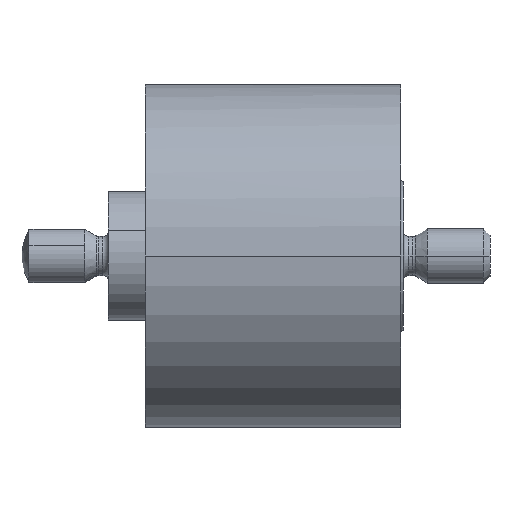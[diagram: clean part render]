
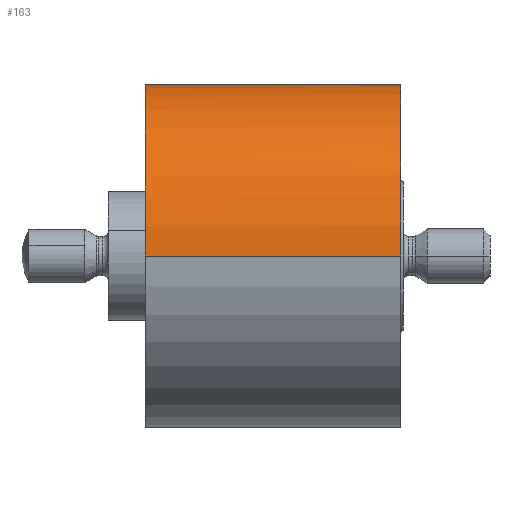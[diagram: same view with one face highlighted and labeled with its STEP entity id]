
A CAD part, left-side view. The second image highlights one B-rep face of the part: STEP entity #163.
In plain terms, the highlighted cylindrical face has radius 12.7 mm (diameter 25.4 mm), a partial arc.
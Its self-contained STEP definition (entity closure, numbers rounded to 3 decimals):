
#163=ADVANCED_FACE('',(#305),#306,.T.);
#305=FACE_OUTER_BOUND('',#513,.T.);
#306=CYLINDRICAL_SURFACE('',#514,12.7);
#513=EDGE_LOOP('',(#927,#928,#929,#930,#931,#932,#933));
#514=AXIS2_PLACEMENT_3D('',#934,#935,#936);
#927=ORIENTED_EDGE('',*,*,#1483,.F.);
#928=ORIENTED_EDGE('',*,*,#1484,.T.);
#929=ORIENTED_EDGE('',*,*,#1485,.T.);
#930=ORIENTED_EDGE('',*,*,#1486,.F.);
#931=ORIENTED_EDGE('',*,*,#1487,.T.);
#932=ORIENTED_EDGE('',*,*,#1488,.F.);
#933=ORIENTED_EDGE('',*,*,#1489,.T.);
#934=CARTESIAN_POINT('',(0.0,7.05,0.0));
#935=DIRECTION('',(0.0,-1.0,0.0));
#936=DIRECTION('',(1.0,0.0,0.0));
#1483=EDGE_CURVE('',#1792,#1793,#1794,.T.);
#1484=EDGE_CURVE('',#1792,#1795,#1796,.T.);
#1485=EDGE_CURVE('',#1795,#1797,#1798,.T.);
#1486=EDGE_CURVE('',#1799,#1797,#1800,.T.);
#1487=EDGE_CURVE('',#1799,#1801,#1802,.T.);
#1488=EDGE_CURVE('',#1803,#1801,#1804,.T.);
#1489=EDGE_CURVE('',#1803,#1793,#1805,.T.);
#1792=VERTEX_POINT('',#2221);
#1793=VERTEX_POINT('',#2222);
#1794=LINE('',#2223,#2224);
#1795=VERTEX_POINT('',#2225);
#1796=CIRCLE('',#2226,12.7);
#1797=VERTEX_POINT('',#2227);
#1798=CIRCLE('',#2228,12.7);
#1799=VERTEX_POINT('',#2229);
#1800=LINE('',#2230,#2231);
#1801=VERTEX_POINT('',#2232);
#1802=CIRCLE('',#2233,12.7);
#1803=VERTEX_POINT('',#2234);
#1804=LINE('',#2235,#2236);
#1805=B_SPLINE_CURVE_WITH_KNOTS('',3,(#2237,#2238,#2239,#2240,#2241,#2242,#2243,#2244,#2245,#2246,#2247,#2248,#2249,#2250,#2251,#2252,#2253,#2254),.UNSPECIFIED.,.F.,.F.,(4,2,2,2,2,2,2,2,4),(0.731,0.914,1.097,1.279,1.462,1.645,1.828,2.011,2.194),.UNSPECIFIED.);
#2221=CARTESIAN_POINT('',(12.7,16.6,0.));
#2222=CARTESIAN_POINT('',(12.7,11.85,0.));
#2223=CARTESIAN_POINT('',(12.7,7.05,0.));
#2224=VECTOR('',#2766,1.0);
#2225=CARTESIAN_POINT('',(3.557,16.6,12.192));
#2226=AXIS2_PLACEMENT_3D('',#2767,#2768,#2769);
#2227=CARTESIAN_POINT('',(-12.7,16.6,0.));
#2228=AXIS2_PLACEMENT_3D('',#2770,#2771,#2772);
#2229=CARTESIAN_POINT('',(-12.7,-2.3,0.));
#2230=CARTESIAN_POINT('',(-12.7,7.05,0.));
#2231=VECTOR('',#2773,1.0);
#2232=CARTESIAN_POINT('',(12.7,-2.3,0.0));
#2233=AXIS2_PLACEMENT_3D('',#2774,#2775,#2776);
#2234=CARTESIAN_POINT('',(12.7,2.25,0.0));
#2235=CARTESIAN_POINT('',(12.7,7.05,0.));
#2236=VECTOR('',#2777,1.0);
#2237=CARTESIAN_POINT('',(12.7,2.25,0.0));
#2238=CARTESIAN_POINT('',(12.7,2.25,0.609));
#2239=CARTESIAN_POINT('',(12.652,2.373,1.255));
#2240=CARTESIAN_POINT('',(12.479,2.865,2.436));
#2241=CARTESIAN_POINT('',(12.355,3.233,2.971));
#2242=CARTESIAN_POINT('',(12.121,4.079,3.817));
#2243=CARTESIAN_POINT('',(11.993,4.614,4.185));
#2244=CARTESIAN_POINT('',(11.81,5.795,4.677));
#2245=CARTESIAN_POINT('',(11.758,6.44,4.8));
#2246=CARTESIAN_POINT('',(11.758,7.66,4.8));
#2247=CARTESIAN_POINT('',(11.81,8.305,4.677));
#2248=CARTESIAN_POINT('',(11.993,9.486,4.185));
#2249=CARTESIAN_POINT('',(12.121,10.021,3.817));
#2250=CARTESIAN_POINT('',(12.355,10.867,2.971));
#2251=CARTESIAN_POINT('',(12.479,11.235,2.436));
#2252=CARTESIAN_POINT('',(12.652,11.727,1.255));
#2253=CARTESIAN_POINT('',(12.7,11.85,0.609));
#2254=CARTESIAN_POINT('',(12.7,11.85,0.));
#2766=DIRECTION('',(0.0,-1.0,0.0));
#2767=CARTESIAN_POINT('',(0.,16.6,0.));
#2768=DIRECTION('',(0.0,-1.0,0.0));
#2769=DIRECTION('',(0.28,0.0,0.96));
#2770=CARTESIAN_POINT('',(0.,16.6,0.));
#2771=DIRECTION('',(0.0,-1.0,0.0));
#2772=DIRECTION('',(0.28,0.0,0.96));
#2773=DIRECTION('',(0.0,1.0,0.0));
#2774=CARTESIAN_POINT('',(0.0,-2.3,0.0));
#2775=DIRECTION('',(0.0,1.0,0.0));
#2776=DIRECTION('',(1.0,0.0,0.0));
#2777=DIRECTION('',(0.0,-1.0,0.0));
